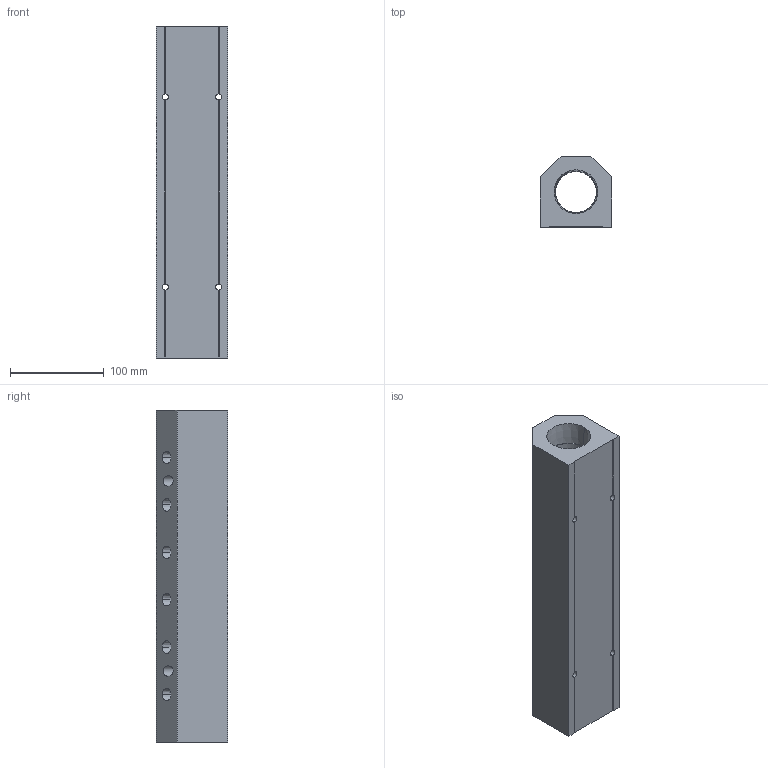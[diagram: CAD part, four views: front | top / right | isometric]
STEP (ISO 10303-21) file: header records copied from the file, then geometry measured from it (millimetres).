
FILE_DESCRIPTION (( 'STEP AP214' ), '1' );
FILE_NAME ('ALM6BD-N4N24-355R.step', '2022-02-07T07:39:49', ( '' ), ( '' ), 'SwSTEP 2.0', 'SolidWorks 2020', '' );
FILE_SCHEMA (( 'AUTOMOTIVE_DESIGN' ));
Length unit declared in the file: millimetre
Products named in the file (1): ALM6BD-N4N24-355R
Bounding box: 76.2 x 76.2 x 355 mm (x, y, z)
Volume: 1294173.4 mm3; surface area: 166172.6 mm2
Topology: 1 solids, 1 shells, 332 faces, 883 edges, 586 vertices
Faces by surface type: plane 218, bspline 68, cone 28, cylinder 18
Entity records: 18626 total; most frequent: CARTESIAN_POINT 7642, ORIENTED_EDGE 1766, DIRECTION 1297, EDGE_CURVE 883, VECTOR 647, LINE 647, VERTEX_POINT 586, EDGE_LOOP 399
